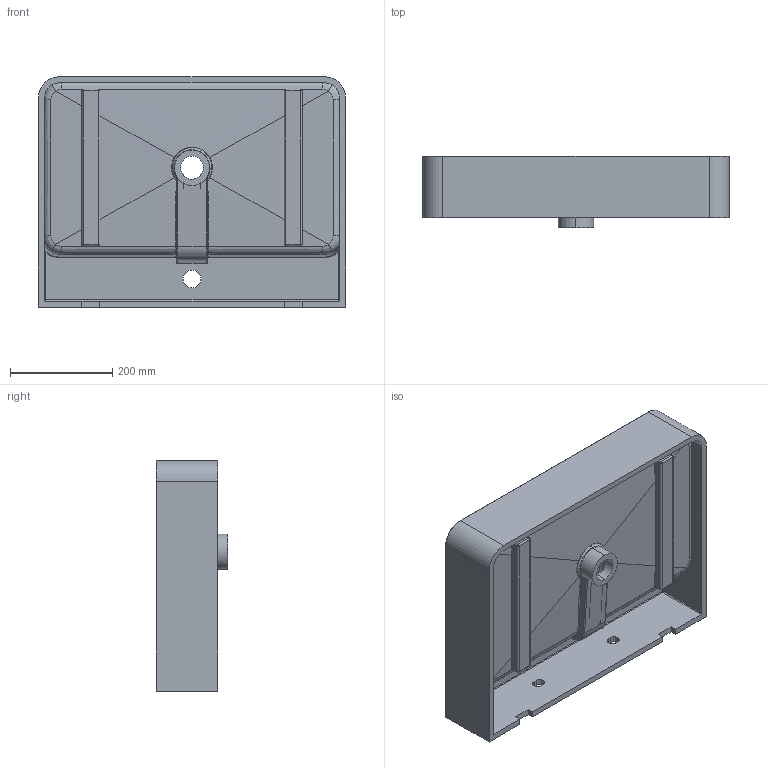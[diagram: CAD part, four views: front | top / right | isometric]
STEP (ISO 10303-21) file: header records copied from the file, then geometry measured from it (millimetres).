
FILE_DESCRIPTION (( 'STEP AP203' ), '1' );
FILE_NAME ('AK600.STEP', '2016-03-26T14:30:49', ( '旮僅薊襠http://www.deepbbs.org' ), ( 'http://www.deepbbs.org' ), 'SwSTEP 2.0', 'SolidWorks 2014', '' );
FILE_SCHEMA (( 'CONFIG_CONTROL_DESIGN' ));
Length unit declared in the file: millimetre
Products named in the file (1): AK600
Bounding box: 600 x 140 x 450 mm (x, y, z)
Volume: 7365390.5 mm3; surface area: 1147754.7 mm2
Topology: 1 solids, 1 shells, 203 faces, 538 edges, 325 vertices
Faces by surface type: cylinder 66, plane 59, bspline 58, sphere 10, torus 6, cone 4
Entity records: 12432 total; most frequent: CARTESIAN_POINT 7963, ORIENTED_EDGE 1056, DIRECTION 738, EDGE_CURVE 528, VERTEX_POINT 325, AXIS2_PLACEMENT_3D 272, EDGE_LOOP 213, ADVANCED_FACE 203
